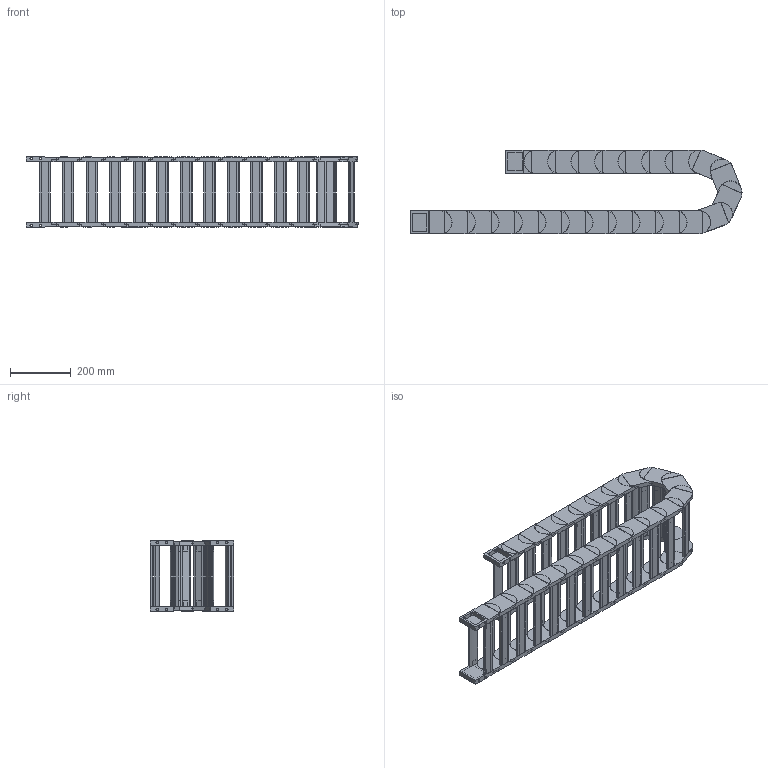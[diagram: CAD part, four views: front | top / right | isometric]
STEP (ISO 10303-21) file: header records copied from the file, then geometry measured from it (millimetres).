
FILE_DESCRIPTION((''),'2;1');
FILE_NAME('HD55-R100-ZPT_ASM','2022-06-17T18:49:08',('admin'),(''),'CREO PARAMETRIC BY PTC INC, 2021164','CREO PARAMETRIC BY PTC INC, 2021164','');
FILE_SCHEMA(('CONFIG_CONTROL_DESIGN','GEOMETRIC_VALIDATION_PROPERTIES_MIM'));
Length unit declared in the file: millimetre
Products named in the file (6): HD-55; 55-500001; HD55_ASM; H55-T1; H55-T2; HD55-R100-ZPT_ASM
Assembly tree (28 placements, depth 3):
  HD55-R100-ZPT_ASM
    HD55_ASM  x22
      HD-55
      55-500001
    H55-T1
    H55-T2
    55-500001  x2
Bounding box: 1094.64 x 275.91 x 232.7 mm (x, y, z)
Volume: 7091210.8 mm3; surface area: 2168454.1 mm2
Topology: 96 solids, 96 shells, 1598 faces, 4102 edges, 2796 vertices
Faces by surface type: plane 1316, cylinder 282
Entity records: 8759 total; most frequent: CARTESIAN_POINT 1292, DIRECTION 1254, ORIENTED_EDGE 1172, EDGE_CURVE 586, VECTOR 418, LINE 418, AXIS2_PLACEMENT_3D 418, VERTEX_POINT 396
